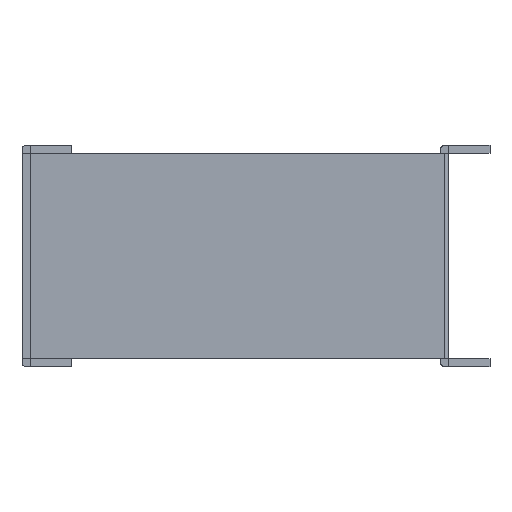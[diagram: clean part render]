
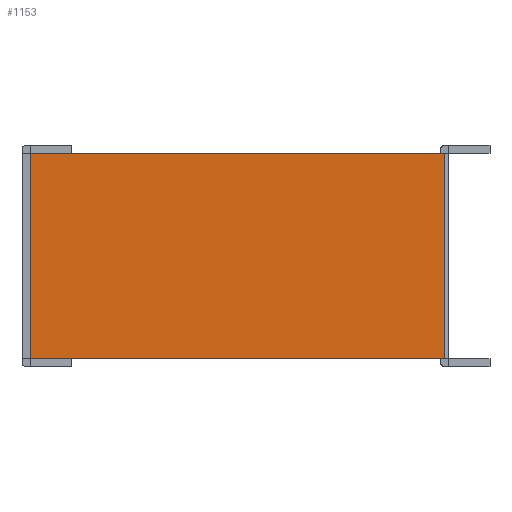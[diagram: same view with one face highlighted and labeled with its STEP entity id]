
A CAD part, left-side view. The second image highlights one B-rep face of the part: STEP entity #1153.
In plain terms, the highlighted planar face has unit normal (-1, 0, 0).
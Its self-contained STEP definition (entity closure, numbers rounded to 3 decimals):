
#53=FACE_OUTER_BOUND('',#121,.T.);
#121=EDGE_LOOP('',(#814,#815,#816,#817));
#199=LINE('',#1627,#349);
#209=LINE('',#1656,#359);
#223=LINE('',#1682,#373);
#232=LINE('',#1700,#382);
#349=VECTOR('',#1309,304.8);
#359=VECTOR('',#1329,304.8);
#373=VECTOR('',#1349,304.8);
#382=VECTOR('',#1360,304.8);
#499=VERTEX_POINT('',#1624);
#500=VERTEX_POINT('',#1626);
#513=VERTEX_POINT('',#1653);
#514=VERTEX_POINT('',#1655);
#607=EDGE_CURVE('',#499,#500,#199,.T.);
#621=EDGE_CURVE('',#513,#514,#209,.T.);
#635=EDGE_CURVE('',#514,#499,#223,.T.);
#644=EDGE_CURVE('',#513,#500,#232,.T.);
#814=ORIENTED_EDGE('',*,*,#635,.F.);
#815=ORIENTED_EDGE('',*,*,#621,.F.);
#816=ORIENTED_EDGE('',*,*,#644,.T.);
#817=ORIENTED_EDGE('',*,*,#607,.F.);
#1095=PLANE('',#1228);
#1153=ADVANCED_FACE('',(#53),#1095,.T.);
#1228=AXIS2_PLACEMENT_3D('',#1699,#1358,#1359);
#1309=DIRECTION('',(0.,-1.,0.));
#1329=DIRECTION('',(0.,1.,0.));
#1349=DIRECTION('',(0.,0.,1.));
#1358=DIRECTION('center_axis',(-1.,0.,0.));
#1359=DIRECTION('ref_axis',(0.,0.,-1.));
#1360=DIRECTION('',(0.,0.,1.));
#1624=CARTESIAN_POINT('',(-1.,50.,25.));
#1626=CARTESIAN_POINT('',(-1.,-51.,25.));
#1627=CARTESIAN_POINT('',(-1.,50.,25.));
#1653=CARTESIAN_POINT('',(-1.,-51.,-25.));
#1655=CARTESIAN_POINT('',(-1.,50.,-25.));
#1656=CARTESIAN_POINT('',(-1.,-51.,-25.));
#1682=CARTESIAN_POINT('',(-1.,50.,25.));
#1699=CARTESIAN_POINT('Origin',(-1.,50.,25.));
#1700=CARTESIAN_POINT('',(-1.,-51.,25.));
